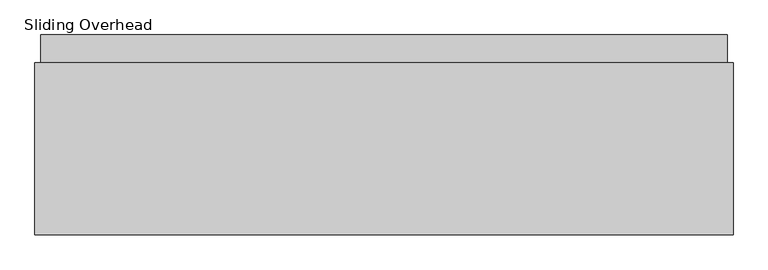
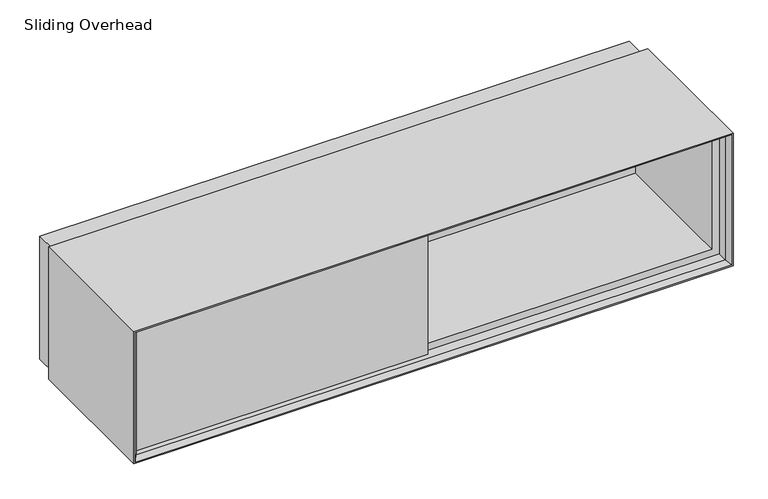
"""IFC4 building model written with IfcOpenShell, lengths in millimetres: furniture geometry."""

from ifc_helpers import new_model, si_unit, frame, origin, place, context, project, spatial, polyline, outline, extrude, faceted_brep, source, transform, mapped, element, save


def sliding_overhead_bb38e065(model_context):
    return source(origin(), model_context, "Body", "SolidModel", [
        extrude(outline(polyline([(609.6, 38.1), (31.75, 38.1), (31.75, 50.8), (609.6, 50.8), (609.6, 38.1)])), frame((0.0, 0.0, 1555.75), z_axis=(0.0, 0.0, 1.0), x_axis=(1.0, 0.0, 0.0)), (0.0, 0.0, 1.0), 292.1),
        extrude(outline(polyline([(762.0, 25.4), (12.7, 25.4), (12.7, 38.1), (762.0, 38.1), (762.0, 25.4)])), frame((0.0, 0.0, 1536.7), z_axis=(0.0, 0.0, 1.0), x_axis=(1.0, 0.0, 0.0)), (0.0, 0.0, 1.0), 330.2),
        extrude(outline(polyline([(768.35, 376.2375), (768.35, 50.8), (755.65, 50.8), (755.65, 376.2375), (768.35, 376.2375)])), frame((0.0, 0.0, 1555.75), z_axis=(0.0, 0.0, 1.0), x_axis=(1.0, 0.0, 0.0)), (0.0, 0.0, 1.0), 292.1),
        extrude(outline(polyline([(1511.3, 376.2375), (12.7, 376.2375), (12.7, 436.5625), (1511.3, 436.5625), (1511.3, 376.2375)])), frame((0.0, 0.0, 1536.7), z_axis=(0.0, 0.0, 1.0), x_axis=(1.0, 0.0, 0.0)), (0.0, 0.0, 1.0), 330.2),
        extrude(outline(polyline([(1866.9, 1511.3), (1866.9, 12.7), (1536.7, 12.7), (1536.7, 1511.3), (1866.9, 1511.3)]), holes=[polyline([(1847.85, 31.75), (1847.85, 1492.25), (1555.75, 1492.25), (1555.75, 31.75), (1847.85, 31.75)])]), frame((0.0, 38.1, 0.0), z_axis=(0.0, 1.0, 0.0), x_axis=(0.0, 0.0, 1.0)), (0.0, 0.0, 1.0), 338.1375),
        faceted_brep([(1511.3, 12.7, 1866.9), (1511.3, 376.2375, 1866.9), (1511.3, 376.2375, 1536.7), (1511.3, 12.7, 1536.7), (1520.825, 0.0, 1876.425), (1520.825, 0.0, 1527.175), (1524.0, 376.2375, 1879.6), (1524.0, 0.0, 1879.6), (1524.0, 0.0, 1524.0), (1524.0, 376.2375, 1524.0), (12.7, 376.2375, 1536.7), (12.7, 12.7, 1536.7), (3.175, 0.0, 1527.175), (0.0, 0.0, 1524.0), (0.0, 376.2375, 1524.0), (12.7, 376.2375, 1866.9), (12.7, 12.7, 1866.9), (3.175, 0.0, 1876.425), (0.0, 0.0, 1879.6), (0.0, 376.2375, 1879.6)], [[[0, 1, 2, 3]], [[4, 0, 3, 5]], [[6, 7, 8, 9]], [[3, 2, 10, 11]], [[5, 3, 11, 12]], [[9, 8, 13, 14]], [[11, 10, 15, 16]], [[12, 11, 16, 17]], [[14, 13, 18, 19]], [[9, 14, 19, 6], [1, 15, 10, 2]], [[16, 15, 1, 0]], [[17, 16, 0, 4]], [[7, 18, 13, 8], [5, 12, 17, 4]], [[19, 18, 7, 6]]]),
    ])


if __name__ == "__main__":
    model = new_model("IFC4")
    model_context = context("Model", 3, world=origin())
    ifc_project = project(units=[si_unit("LENGTHUNIT", "METRE", prefix="MILLI")], contexts=[model_context])
    site = spatial("IfcSite", under=ifc_project)
    building = spatial("IfcBuilding", under=site)
    placement = place(None, origin())
    sliding_overhead_shape = sliding_overhead_bb38e065(model_context)
    element("IfcFurniture", 1, ObjectType="Sliding Overhead : 2 3/8\" Backpanel - 60\" W", at=placement, inside=building, context=model_context, shape_type="MappedRepresentation", body=[
        mapped(sliding_overhead_shape, transform((0.0, 0.0, 0.0), x_axis=(1.0, 0.0, 0.0), y_axis=(0.0, 1.0, 0.0), z_axis=(0.0, 0.0, 1.0))),
    ])
    save(model, "model.ifc")
